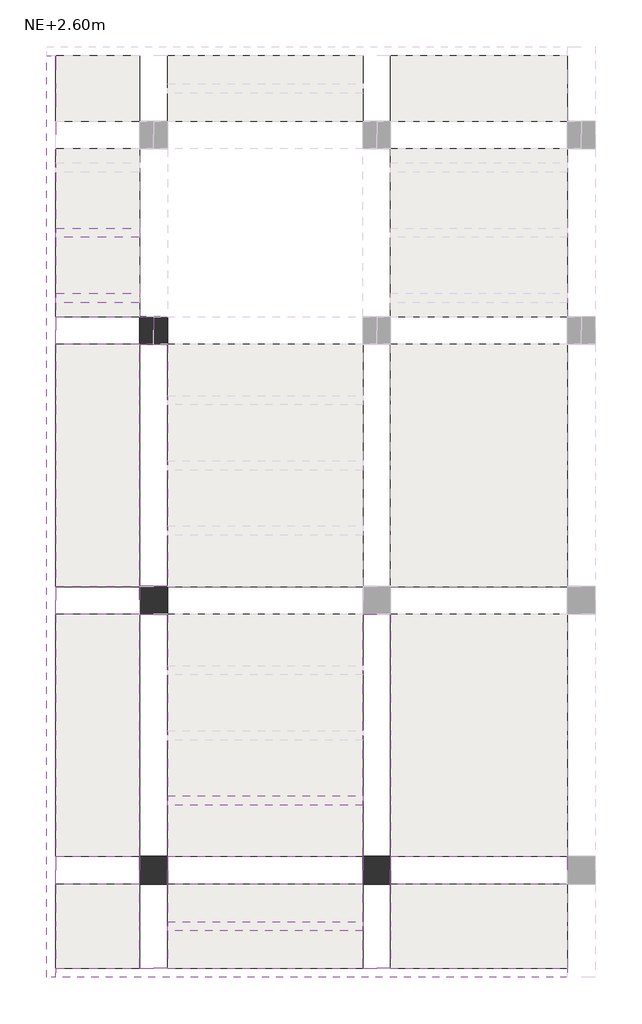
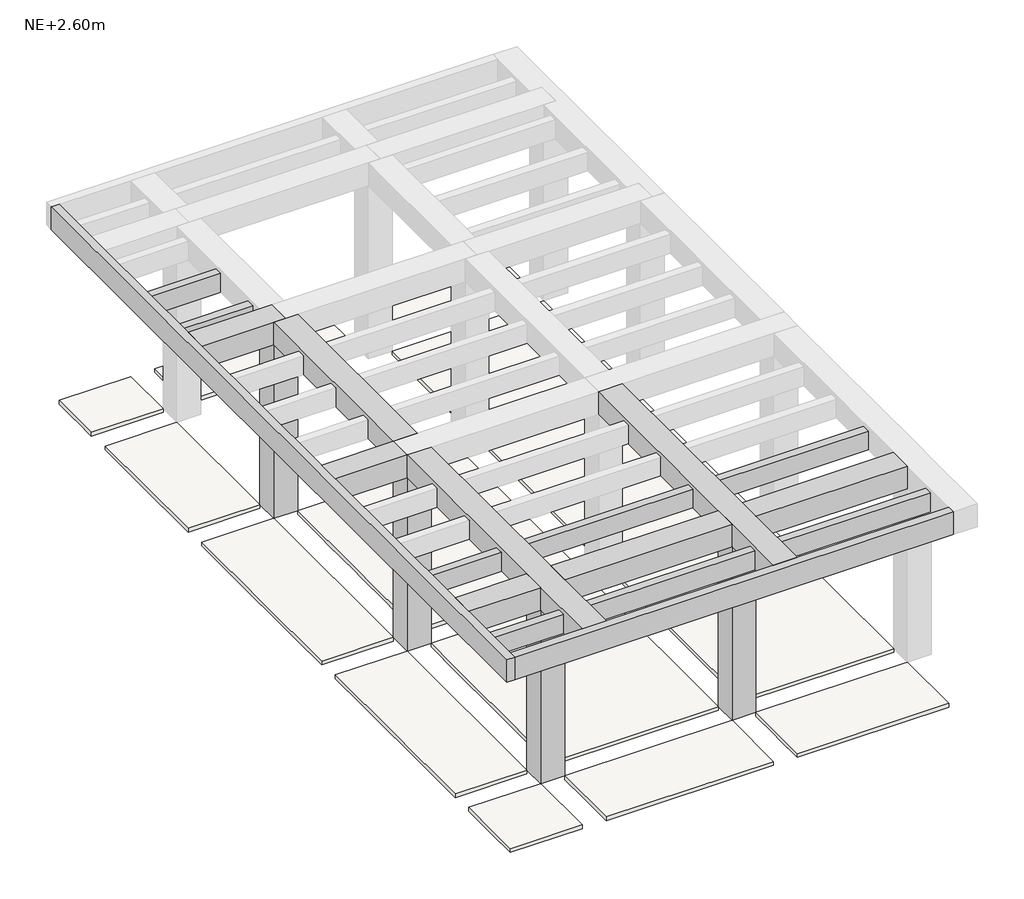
# One storey, part 1 of 2: 14 beams, 4 columns, 1 slab.
"""IFC4 building model written with IfcOpenShell, lengths in millimetres."""

import ifcopenshell
import ifcopenshell.guid

model = None  # the IFC model being written
_history = None  # IfcOwnerHistory: only IFC2X3 demands one
_inside = {}  # id of a spatial element -> (the spatial element, [elements in it])
_under = {}  # id of a project, library or spatial element -> (it, [spatial elements below it])
_declared = {}  # id of a project -> (the project, [libraries it declares])
_typed = {}  # id of a type object -> (the type object, [elements of that type])
_made_of = {}  # id of a material, layer set ... -> (it, [elements and type objects made of it])


def new_model(schema):
    """Start an empty IFC model of exactly this schema.

    Asked for "IFC4X3", IfcOpenShell would pick the latest addendum, in which some entities
    have other attributes; the version numbers below select the first issue.
    IFC2X3 requires an IfcOwnerHistory on every rooted entity: one is made here for all.
    """
    global model, _history
    if schema == "IFC4X3":
        model = ifcopenshell.file(schema_version=(4, 3, 0, 0))
    else:
        model = ifcopenshell.file(schema=schema)
    _inside.clear()
    _under.clear()
    _declared.clear()
    _typed.clear()
    _made_of.clear()
    _history = None
    if model.schema == "IFC2X3":
        org = make("IfcOrganization", Name="unknown")
        user = make(
            "IfcPersonAndOrganization",
            ThePerson=make("IfcPerson", FamilyName="unknown"),
            TheOrganization=org,
        )
        app = make(
            "IfcApplication",
            ApplicationDeveloper=org,
            Version="unknown",
            ApplicationFullName="unknown",
            ApplicationIdentifier="unknown",
        )
        _history = make(
            "IfcOwnerHistory",
            OwningUser=user,
            OwningApplication=app,
            ChangeAction="ADDED",
            CreationDate=0,
        )
    return model


def make(cls, **values):
    """One entity of the class cls with the attributes given. An attribute that is None is left unset."""
    return model.create_entity(
        cls, **{name: value for name, value in values.items() if value is not None}
    )


def rooted(cls, **values):
    """An entity with a GlobalId (a new one), such as an element, a storey or a relation."""
    return make(cls, GlobalId=ifcopenshell.guid.new(), OwnerHistory=_history, **values)


def si_unit(unit_type, name, prefix=None):
    """IfcSIUnit, for example si_unit("LENGTHUNIT", "METRE", prefix="MILLI")."""
    return make("IfcSIUnit", UnitType=unit_type, Prefix=prefix, Name=name)


def assignment(units):
    """IfcUnitAssignment: the units of a project."""
    return None if units is None else make("IfcUnitAssignment", Units=units)


def point(xyz):
    """IfcCartesianPoint."""
    return None if xyz is None else make("IfcCartesianPoint", Coordinates=xyz)


def direction(xyz):
    """IfcDirection."""
    return None if xyz is None else make("IfcDirection", DirectionRatios=xyz)


def frame(location, z_axis=None, x_axis=None):
    """IfcAxis2Placement3D, a coordinate frame: its origin and axes. An axis left out is left unset."""
    return make(
        "IfcAxis2Placement3D",
        Location=point(location),
        Axis=direction(z_axis),
        RefDirection=direction(x_axis),
    )


def origin():
    """The frame at (0, 0, 0) with its axes left unset."""
    return frame((0.0, 0.0, 0.0))


def place(relative_to, where):
    """IfcLocalPlacement: puts the frame where relative to a parent placement (None: the world)."""
    return make(
        "IfcLocalPlacement", PlacementRelTo=relative_to, RelativePlacement=where
    )


def context(
    kind, dimensions, precision=None, world=None, true_north=None, identifier=None
):
    """IfcGeometricRepresentationContext, for example the 3D "Model" context."""
    return make(
        "IfcGeometricRepresentationContext",
        ContextIdentifier=identifier,
        ContextType=kind,
        CoordinateSpaceDimension=dimensions,
        Precision=precision,
        WorldCoordinateSystem=world,
        TrueNorth=true_north,
    )


def project(units=None, contexts=None):
    """IfcProject with its units and contexts."""
    return rooted(
        "IfcProject",
        Name="project",
        RepresentationContexts=contexts,
        UnitsInContext=assignment(units),
    )


def spatial(cls, under=None, at=None, **own):
    """A site, building, storey or space (cls), placed at a placement, below another one or the project."""
    s = rooted(cls, ObjectPlacement=at, **own)
    if under is not None:
        _under.setdefault(under.id(), (under, []))[1].append(s)
    return s


def polyline(points):
    """IfcPolyline through the points."""
    return make("IfcPolyline", Points=[point(p) for p in points])


def outline(outer, holes=None, kind="AREA"):
    """IfcArbitraryClosedProfileDef: a profile drawn as a closed curve; with holes, ...WithVoids."""
    if holes is None:
        return make("IfcArbitraryClosedProfileDef", ProfileType=kind, OuterCurve=outer)
    return make(
        "IfcArbitraryProfileDefWithVoids",
        ProfileType=kind,
        OuterCurve=outer,
        InnerCurves=holes,
    )


def extrude(swept, where, along, depth):
    """IfcExtrudedAreaSolid: the profile swept, set in the frame where, extruded along a direction by depth."""
    return make(
        "IfcExtrudedAreaSolid",
        SweptArea=swept,
        Position=where,
        ExtrudedDirection=direction(along),
        Depth=depth,
    )


def faces_of(points, faces, orient=None, outer=None):
    """IfcFace entities. A face is a list of loops; a loop is a list of indices into points, from 0.

    orient and outer hold one flag for each loop. By default every Orientation is true, the
    first loop of a face is its IfcFaceOuterBound and the others are IfcFaceBound.
    """
    made = []
    for i, loops in enumerate(faces):
        bounds = []
        for j, loop in enumerate(loops):
            is_outer = j == 0 if outer is None else outer[i][j]
            bounds.append(
                make(
                    "IfcFaceOuterBound" if is_outer else "IfcFaceBound",
                    Bound=make("IfcPolyLoop", Polygon=[points[k] for k in loop]),
                    Orientation=True if orient is None else orient[i][j],
                )
            )
        made.append(make("IfcFace", Bounds=bounds))
    return made


def faceted_brep(points, faces, orient=None, outer=None, voids=None):
    """IfcFacetedBrep: a solid bounded by flat faces; with voids (closed shells), ...WithVoids."""
    shared = [point(p) for p in points]
    hull = make("IfcClosedShell", CfsFaces=faces_of(shared, faces, orient, outer))
    if voids is None:
        return make("IfcFacetedBrep", Outer=hull)
    return make(
        "IfcFacetedBrepWithVoids",
        Outer=hull,
        Voids=[
            make(cls, CfsFaces=faces_of(shared, fs, o, b)) for cls, fs, o, b in voids
        ],
    )


def shape(context_of_items, identifier, shape_type, items):
    """IfcShapeRepresentation: the items that make up one representation, for example the "Body"."""
    return make(
        "IfcShapeRepresentation",
        ContextOfItems=context_of_items,
        RepresentationIdentifier=identifier,
        RepresentationType=shape_type,
        Items=items,
    )


def made_of(thing, what):
    """Note that an element or type object is made of a material, layer set ...; save() writes the relation."""
    if what is not None:
        _made_of.setdefault(what.id(), (what, []))[1].append(thing)
    return thing


def element(
    cls,
    number,
    at=None,
    inside=None,
    cuts=None,
    type_object=None,
    material=None,
    context=None,
    identifier="Body",
    shape_type=None,
    held_by="IfcProductDefinitionShape",
    body=None,
    shapes=None,
    **own,
):
    """One element of the class cls, such as IfcWall. Its Tag is "e" and its number.

    at: its placement. inside: the storey or other place that contains it. cuts: it is an
    opening in that element (IfcRelVoidsElement). A single representation is given by context,
    identifier, shape_type and body (its items); several are given by shapes. held_by: the class
    of the entity that holds the representations. save() writes the other relations.
    """
    e = rooted(cls, Tag="e%d" % number, ObjectPlacement=at, **own)
    if body is not None:
        shapes = [shape(context, identifier, shape_type, body)]
    if shapes is not None:
        e.Representation = make(held_by, Representations=shapes)
    if inside is not None:
        _inside.setdefault(inside.id(), (inside, []))[1].append(e)
    if cuts is not None:
        rooted(
            "IfcRelVoidsElement", RelatingBuildingElement=cuts, RelatedOpeningElement=e
        )
    if type_object is not None:
        _typed.setdefault(type_object.id(), (type_object, []))[1].append(e)
    return made_of(e, material)


def aggregate(whole, parts):
    """IfcRelAggregates: a whole, such as a stair, and the parts it consists of."""
    return rooted("IfcRelAggregates", RelatingObject=whole, RelatedObjects=parts)


def save(model, path):
    """Write the relations noted so far, then the file.

    IfcRelAggregates (storeys below a building ...), IfcRelContainedInSpatialStructure (elements
    in a storey), IfcRelDefinesByType, IfcRelAssociatesMaterial and IfcRelDeclares: one each for
    every whole, place, type object, material and project.
    """
    for whole, parts in _under.values():
        aggregate(whole, parts)
    for where, things in _inside.values():
        rooted(
            "IfcRelContainedInSpatialStructure",
            RelatedElements=things,
            RelatingStructure=where,
        )
    for kind, things in _typed.values():
        rooted("IfcRelDefinesByType", RelatedObjects=things, RelatingType=kind)
    for what, things in _made_of.values():
        rooted("IfcRelAssociatesMaterial", RelatedObjects=things, RelatingMaterial=what)
    for by, libraries in _declared.values():
        rooted("IfcRelDeclares", RelatingContext=by, RelatedDefinitions=libraries)
    model.write(path)


model = new_model("IFC4")

# Units and contexts
model_context = context("Model", 3, world=origin())
ifc_project = project(units=[si_unit("LENGTHUNIT", "METRE", prefix="MILLI")], contexts=[model_context])

# Site, building, storey
site = spatial("IfcSite", under=ifc_project)
building = spatial("IfcBuilding", under=site)
storey = spatial("IfcBuildingStorey", under=building, Name="NE+2.60m", Elevation=2600.0)

# Beams
placement = place(None, origin())
element("IfcBeam", 1, ObjectType="Hormigón-Viga rectangular : VA (0.30x0.30m)", at=placement, inside=storey, context=model_context, shape_type="Brep", body=[
    faceted_brep([(-897.6811082, -1337.1867862, 5200.0), (-897.6811082, -1037.1867862, 5200.0), (-1047.6811082, -1037.1867862, 5200.0), (-1947.6811082, -1037.1867862, 5200.0), (-1947.6811082, -1337.1867862, 5200.0), (-1047.6811082, -1337.1867862, 5200.0), (-897.6811082, -1037.1867862, 4900.0), (-1047.6811082, -1037.1867862, 4900.0), (-1947.6811082, -1037.1867862, 4900.0), (-1947.6811082, -1037.1867862, 5150.0), (-897.6811082, -1337.1867862, 4900.0), (-1047.6811082, -1337.1867862, 4900.0), (-1947.6811082, -1337.1867862, 4900.0), (-1947.6811082, -1337.1867862, 5150.0)], [[[0, 1, 2, 3, 4, 5]], [[1, 6, 7, 8, 9, 3, 2]], [[6, 10, 11, 12, 8, 7]], [[10, 0, 5, 4, 13, 12, 11]], [[0, 10, 6, 1]], [[4, 3, 9, 8, 12, 13]]]),
])
element("IfcBeam", 2, ObjectType="Hormigón-Viga rectangular : VA (0.30x0.30m)", at=placement, inside=storey, context=model_context, shape_type="Brep", body=[
    faceted_brep([(-1047.6811082, -4237.1867862, 5200.0), (-1047.6811082, -3937.1867862, 5200.0), (-1947.6811082, -3937.1867862, 5200.0), (-1947.6811082, -4237.1867862, 5200.0), (-1047.6811082, -3937.1867862, 5150.0), (-1047.6811082, -3937.1867862, 4900.0), (-1947.6811082, -3937.1867862, 4900.0), (-1947.6811082, -3937.1867862, 5150.0), (-1047.6811082, -4237.1867862, 4900.0), (-1947.6811082, -4237.1867862, 4900.0), (-1947.6811082, -4237.1867862, 5150.0), (-1047.6811082, -4237.1867862, 5150.0)], [[[0, 1, 2, 3]], [[2, 1, 4, 5, 6, 7]], [[5, 8, 9, 6]], [[0, 3, 10, 9, 8, 11]], [[1, 0, 11, 8, 5, 4]], [[3, 2, 7, 6, 9, 10]]]),
])
element("IfcBeam", 3, ObjectType="Hormigón-Viga rectangular : VA (0.30x0.30m)", at=placement, inside=storey, context=model_context, shape_type="Brep", body=[
    faceted_brep([(3552.3188918, -7137.1867862, 5200.0), (3552.3188918, -6837.1867862, 5200.0), (1652.3188918, -6837.1867862, 5200.0), (1652.3188918, -7137.1867862, 5200.0), (3552.3188918, -6837.1867862, 5150.0), (3552.3188918, -6837.1867862, 4900.0), (1652.3188918, -6837.1867862, 4900.0), (1652.3188918, -6837.1867862, 5150.0), (3552.3188918, -7137.1867862, 4900.0), (1652.3188918, -7137.1867862, 4900.0), (1652.3188918, -7137.1867862, 5150.0), (3552.3188918, -7137.1867862, 5150.0)], [[[0, 1, 2, 3]], [[2, 1, 4, 5, 6, 7]], [[5, 8, 9, 6]], [[0, 3, 10, 9, 8, 11]], [[1, 0, 11, 8, 5, 4]], [[3, 2, 7, 6, 9, 10]]]),
])
element("IfcBeam", 4, ObjectType="Hormigón-Viga rectangular : VA (0.30x0.30m)", at=placement, inside=storey, context=model_context, shape_type="Brep", body=[
    faceted_brep([(1352.3188918, -7137.1867862, 5200.0), (1352.3188918, -6837.1867862, 5200.0), (-747.6811082, -6837.1867862, 5200.0), (-747.6811082, -7137.1867862, 5200.0), (1352.3188918, -6837.1867862, 5150.0), (1352.3188918, -6837.1867862, 4900.0), (-747.6811082, -6837.1867862, 4900.0), (-747.6811082, -6837.1867862, 5150.0), (1352.3188918, -7137.1867862, 4900.0), (-747.6811082, -7137.1867862, 4900.0), (-747.6811082, -7137.1867862, 5150.0), (1352.3188918, -7137.1867862, 5150.0)], [[[0, 1, 2, 3]], [[2, 1, 4, 5, 6, 7]], [[5, 8, 9, 6]], [[0, 3, 10, 9, 8, 11]], [[1, 0, 11, 8, 5, 4]], [[3, 2, 7, 6, 9, 10]]]),
])
element("IfcBeam", 5, ObjectType="Hormigón-Viga rectangular : VA (0.30x0.30m)", at=placement, inside=storey, context=model_context, shape_type="Brep", body=[
    faceted_brep([(-1047.6811082, -7137.1867862, 5200.0), (-1047.6811082, -6837.1867862, 5200.0), (-1947.6811082, -6837.1867862, 5200.0), (-1947.6811082, -7137.1867862, 5200.0), (-1047.6811082, -6837.1867862, 5150.0), (-1047.6811082, -6837.1867862, 4900.0), (-1947.6811082, -6837.1867862, 4900.0), (-1947.6811082, -6837.1867862, 5150.0), (-1047.6811082, -7137.1867862, 4900.0), (-1947.6811082, -7137.1867862, 4900.0), (-1947.6811082, -7137.1867862, 5150.0), (-1047.6811082, -7137.1867862, 5150.0)], [[[0, 1, 2, 3]], [[2, 1, 4, 5, 6, 7]], [[5, 8, 9, 6]], [[0, 3, 10, 9, 8, 11]], [[1, 0, 11, 8, 5, 4]], [[3, 2, 7, 6, 9, 10]]]),
])
element("IfcBeam", 6, ObjectType="Hormigón-Viga rectangular : VA (0.30x0.30m)", at=placement, inside=storey, context=model_context, shape_type="Brep", body=[
    faceted_brep([(1652.3188918, -4237.1867862, 5200.0), (1352.3188918, -4237.1867862, 5200.0), (1352.3188918, -6837.1867862, 5200.0), (1352.3188918, -7137.1867862, 5200.0), (1352.3188918, -8037.1867862, 5200.0), (1652.3188918, -8037.1867862, 5200.0), (1652.3188918, -7137.1867862, 5200.0), (1652.3188918, -6837.1867862, 5200.0), (1652.3188918, -8037.1867862, 4900.0), (1652.3188918, -7637.1867862, 4900.0), (1652.3188918, -7537.1867862, 4900.0), (1652.3188918, -7137.1867862, 4900.0), (1652.3188918, -6837.1867862, 4900.0), (1652.3188918, -6287.1867862, 4900.0), (1652.3188918, -6187.1867862, 4900.0), (1652.3188918, -5587.1867862, 4900.0), (1652.3188918, -5487.1867862, 4900.0), (1652.3188918, -4887.1867862, 4900.0), (1652.3188918, -4787.1867862, 4900.0), (1652.3188918, -4237.1867862, 4900.0), (1652.3188918, -4237.1867862, 5150.0), (1652.3188918, -8037.1867862, 5150.0), (1352.3188918, -4237.1867862, 4900.0), (1352.3188918, -8037.1867862, 4900.0), (1352.3188918, -7637.1867862, 4900.0), (1352.3188918, -7537.1867862, 4900.0), (1352.3188918, -7137.1867862, 4900.0), (1352.3188918, -6837.1867862, 4900.0), (1352.3188918, -6287.1867862, 4900.0), (1352.3188918, -6187.1867862, 4900.0), (1352.3188918, -5587.1867862, 4900.0), (1352.3188918, -5487.1867862, 4900.0), (1352.3188918, -4887.1867862, 4900.0), (1352.3188918, -4787.1867862, 4900.0), (1352.3188918, -8037.1867862, 5150.0), (1352.3188918, -4237.1867862, 5150.0)], [[[0, 1, 2, 3, 4, 5, 6, 7]], [[8, 9, 10, 11, 12, 13, 14, 15, 16, 17, 18, 19, 20, 0, 7, 6, 5, 21]], [[22, 19, 18, 17, 16, 15, 14, 13, 12, 11, 10, 9, 8, 23, 24, 25, 26, 27, 28, 29, 30, 31, 32, 33]], [[22, 33, 32, 31, 30, 29, 28, 27, 26, 25, 24, 23, 34, 4, 3, 2, 1, 35]], [[1, 0, 20, 19, 22, 35]], [[5, 4, 34, 23, 8, 21]]]),
])
element("IfcBeam", 7, ObjectType="Hormigón-Viga rectangular : VA (0.30x0.30m)", at=placement, inside=storey, context=model_context, shape_type="Brep", body=[
    faceted_brep([(-1047.6811082, -3937.1867862, 5200.0), (-747.6811082, -3937.1867862, 5200.0), (-747.6811082, -1337.1867862, 5200.0), (-897.6811082, -1337.1867862, 5200.0), (-1047.6811082, -1337.1867862, 5200.0), (-1047.6811082, -1337.1867862, 5150.0), (-1047.6811082, -1337.1867862, 4900.0), (-1047.6811082, -1887.1867862, 4900.0), (-1047.6811082, -1987.1867862, 4900.0), (-1047.6811082, -2587.1867862, 4900.0), (-1047.6811082, -2687.1867862, 4900.0), (-1047.6811082, -3287.1867862, 4900.0), (-1047.6811082, -3387.1867862, 4900.0), (-1047.6811082, -3937.1867862, 4900.0), (-1047.6811082, -3937.1867862, 5150.0), (-747.6811082, -3937.1867862, 4900.0), (-897.6811082, -1337.1867862, 4900.0), (-747.6811082, -1337.1867862, 4900.0), (-747.6811082, -1887.1867862, 4900.0), (-747.6811082, -1987.1867862, 4900.0), (-747.6811082, -2587.1867862, 4900.0), (-747.6811082, -2687.1867862, 4900.0), (-747.6811082, -3287.1867862, 4900.0), (-747.6811082, -3387.1867862, 4900.0), (-747.6811082, -3937.1867862, 5150.0), (-747.6811082, -1337.1867862, 5150.0)], [[[0, 1, 2, 3, 4]], [[0, 4, 5, 6, 7, 8, 9, 10, 11, 12, 13, 14]], [[15, 13, 12, 11, 10, 9, 8, 7, 6, 16, 17, 18, 19, 20, 21, 22, 23]], [[2, 1, 24, 15, 23, 22, 21, 20, 19, 18, 17, 25]], [[1, 0, 14, 13, 15, 24]], [[4, 3, 2, 25, 17, 16, 6, 5]]]),
])
element("IfcBeam", 8, ObjectType="Hormigón-Viga rectangular : VA (0.30x0.30m)", at=placement, inside=storey, context=model_context, shape_type="Brep", body=[
    faceted_brep([(-747.6811082, -4237.1867862, 5200.0), (-1047.6811082, -4237.1867862, 5200.0), (-1047.6811082, -6837.1867862, 5200.0), (-1047.6811082, -7137.1867862, 5200.0), (-1047.6811082, -8037.1867862, 5200.0), (-747.6811082, -8037.1867862, 5200.0), (-747.6811082, -7137.1867862, 5200.0), (-747.6811082, -6837.1867862, 5200.0), (-1047.6811082, -4237.1867862, 4900.0), (-1047.6811082, -4787.1867862, 4900.0), (-1047.6811082, -4887.1867862, 4900.0), (-1047.6811082, -5487.1867862, 4900.0), (-1047.6811082, -5587.1867862, 4900.0), (-1047.6811082, -6187.1867862, 4900.0), (-1047.6811082, -6287.1867862, 4900.0), (-1047.6811082, -6837.1867862, 4900.0), (-1047.6811082, -7137.1867862, 4900.0), (-1047.6811082, -7537.1867862, 4900.0), (-1047.6811082, -7637.1867862, 4900.0), (-1047.6811082, -8037.1867862, 4900.0), (-1047.6811082, -8037.1867862, 5150.0), (-1047.6811082, -4237.1867862, 5150.0), (-747.6811082, -4237.1867862, 4900.0), (-747.6811082, -4787.1867862, 4900.0), (-747.6811082, -4887.1867862, 4900.0), (-747.6811082, -5487.1867862, 4900.0), (-747.6811082, -5587.1867862, 4900.0), (-747.6811082, -6187.1867862, 4900.0), (-747.6811082, -6287.1867862, 4900.0), (-747.6811082, -6837.1867862, 4900.0), (-747.6811082, -7137.1867862, 4900.0), (-747.6811082, -7537.1867862, 4900.0), (-747.6811082, -7637.1867862, 4900.0), (-747.6811082, -8037.1867862, 4900.0), (-747.6811082, -4237.1867862, 5150.0), (-747.6811082, -8037.1867862, 5150.0)], [[[0, 1, 2, 3, 4, 5, 6, 7]], [[8, 9, 10, 11, 12, 13, 14, 15, 16, 17, 18, 19, 20, 4, 3, 2, 1, 21]], [[8, 22, 23, 24, 25, 26, 27, 28, 29, 30, 31, 32, 33, 19, 18, 17, 16, 15, 14, 13, 12, 11, 10, 9]], [[33, 32, 31, 30, 29, 28, 27, 26, 25, 24, 23, 22, 34, 0, 7, 6, 5, 35]], [[1, 0, 34, 22, 8, 21]], [[5, 4, 20, 19, 33, 35]]]),
])
element("IfcBeam", 9, ObjectType="Hormigón-Viga rectangular : VB (0.10x0.30m)", at=placement, inside=storey, context=model_context, shape_type="Brep", body=[
    faceted_brep([(-2047.6811082, -8137.1867862, 5200.0), (-1947.6811082, -8137.1867862, 5200.0), (-1947.6811082, -8037.1867862, 5200.0), (-1947.6811082, -7137.1867862, 5200.0), (-1947.6811082, -6837.1867862, 5200.0), (-1947.6811082, -4237.1867862, 5200.0), (-1947.6811082, -3937.1867862, 5200.0), (-1947.6811082, -1337.1867862, 5200.0), (-1947.6811082, -1037.1867862, 5200.0), (-1947.6811082, 762.8132138, 5200.0), (-1947.6811082, 1062.8132138, 5200.0), (-1947.6811082, 1762.8132138, 5200.0), (-2047.6811082, 1762.8132138, 5200.0), (-2047.6811082, -8137.1867862, 4900.0), (-2047.6811082, 1762.8132138, 4900.0), (-1947.6811082, -8137.1867862, 4900.0), (-1947.6811082, 1762.8132138, 4900.0), (-1947.6811082, 1462.8132138, 4900.0), (-1947.6811082, 1362.8132138, 4900.0), (-1947.6811082, 1062.8132138, 4900.0), (-1947.6811082, 762.8132138, 4900.0), (-1947.6811082, 612.8132138, 4900.0), (-1947.6811082, 512.8132138, 4900.0), (-1947.6811082, -87.1867862, 4900.0), (-1947.6811082, -187.1867862, 4900.0), (-1947.6811082, -787.1867862, 4900.0), (-1947.6811082, -887.1867862, 4900.0), (-1947.6811082, -1037.1867862, 4900.0), (-1947.6811082, -1337.1867862, 4900.0), (-1947.6811082, -1887.1867862, 4900.0), (-1947.6811082, -1987.1867862, 4900.0), (-1947.6811082, -2587.1867862, 4900.0), (-1947.6811082, -2687.1867862, 4900.0), (-1947.6811082, -3287.1867862, 4900.0), (-1947.6811082, -3387.1867862, 4900.0), (-1947.6811082, -3937.1867862, 4900.0), (-1947.6811082, -4237.1867862, 4900.0), (-1947.6811082, -4787.1867862, 4900.0), (-1947.6811082, -4887.1867862, 4900.0), (-1947.6811082, -5487.1867862, 4900.0), (-1947.6811082, -5587.1867862, 4900.0), (-1947.6811082, -6187.1867862, 4900.0), (-1947.6811082, -6287.1867862, 4900.0), (-1947.6811082, -6837.1867862, 4900.0), (-1947.6811082, -7137.1867862, 4900.0), (-1947.6811082, -7537.1867862, 4900.0), (-1947.6811082, -7637.1867862, 4900.0), (-1947.6811082, -8037.1867862, 4900.0), (-1947.6811082, 1762.8132138, 5150.0)], [[[0, 1, 2, 3, 4, 5, 6, 7, 8, 9, 10, 11, 12]], [[13, 0, 12, 14]], [[15, 13, 14, 16, 17, 18, 19, 20, 21, 22, 23, 24, 25, 26, 27, 28, 29, 30, 31, 32, 33, 34, 35, 36, 37, 38, 39, 40, 41, 42, 43, 44, 45, 46, 47]], [[1, 15, 47, 46, 45, 44, 43, 42, 41, 40, 39, 38, 37, 36, 35, 34, 33, 32, 31, 30, 29, 28, 27, 26, 25, 24, 23, 22, 21, 20, 19, 18, 17, 16, 48, 11, 10, 9, 8, 7, 6, 5, 4, 3, 2]], [[12, 11, 48, 16, 14]], [[1, 0, 13, 15]]]),
])
element("IfcBeam", 10, ObjectType="Hormigón-Viga rectangular : VB (0.10x0.30m)", at=placement, inside=storey, context=model_context, shape_type="Brep", body=[
    faceted_brep([(-1947.6811082, -8037.1867862, 5200.0), (-1947.6811082, -8137.1867862, 5200.0), (3552.3188918, -8137.1867862, 5200.0), (3552.3188918, -8037.1867862, 5200.0), (1652.3188918, -8037.1867862, 5200.0), (1352.3188918, -8037.1867862, 5200.0), (-747.6811082, -8037.1867862, 5200.0), (-1047.6811082, -8037.1867862, 5200.0), (-1947.6811082, -8137.1867862, 4900.0), (3552.3188918, -8137.1867862, 4900.0), (-1947.6811082, -8037.1867862, 4900.0), (-1047.6811082, -8037.1867862, 4900.0), (-747.6811082, -8037.1867862, 4900.0), (1352.3188918, -8037.1867862, 4900.0), (1652.3188918, -8037.1867862, 4900.0), (3552.3188918, -8037.1867862, 4900.0), (-1947.6811082, -8037.1867862, 5150.0), (3552.3188918, -8037.1867862, 5150.0)], [[[0, 1, 2, 3, 4, 5, 6, 7]], [[1, 8, 9, 2]], [[8, 10, 11, 12, 13, 14, 15, 9]], [[10, 16, 0, 7, 6, 5, 4, 3, 17, 15, 14, 13, 12, 11]], [[1, 0, 16, 10, 8]], [[3, 2, 9, 15, 17]]]),
])
element("IfcBeam", 11, ObjectType="Hormigón-Viga rectangular : VT (0.10x0.30m)", at=placement, inside=storey, context=model_context, shape_type="SweptSolid", body=[
    extrude(outline(polyline([(3552.3188918, -7537.1867862), (3552.3188918, -7637.1867862), (1652.3188918, -7637.1867862), (1652.3188918, -7537.1867862), (3552.3188918, -7537.1867862)])), frame((0.0, 0.0, 4900.0), z_axis=(0.0, 0.0, 1.0), x_axis=(1.0, 0.0, 0.0)), (0.0, 0.0, 1.0), 250.0),
    extrude(outline(polyline([(-1947.6811082, -7637.1867862), (-1947.6811082, -7537.1867862), (-1047.6811082, -7537.1867862), (-1047.6811082, -7637.1867862), (-1947.6811082, -7637.1867862)])), frame((0.0, 0.0, 4900.0), z_axis=(0.0, 0.0, 1.0), x_axis=(1.0, 0.0, 0.0)), (0.0, 0.0, 1.0), 250.0),
    extrude(outline(polyline([(1352.3188918, -7537.1867862), (1352.3188918, -7637.1867862), (-747.6811082, -7637.1867862), (-747.6811082, -7537.1867862), (1352.3188918, -7537.1867862)])), frame((0.0, 0.0, 4900.0), z_axis=(0.0, 0.0, 1.0), x_axis=(1.0, 0.0, 0.0)), (0.0, 0.0, 1.0), 250.0),
])
element("IfcBeam", 12, ObjectType="Hormigón-Viga rectangular : VT (0.10x0.30m)", at=placement, inside=storey, context=model_context, shape_type="SweptSolid", body=[
    extrude(outline(polyline([(3552.3188918, -6187.1867862), (3552.3188918, -6287.1867862), (1652.3188918, -6287.1867862), (1652.3188918, -6187.1867862), (3552.3188918, -6187.1867862)])), frame((0.0, 0.0, 4900.0), z_axis=(0.0, 0.0, 1.0), x_axis=(1.0, 0.0, 0.0)), (0.0, 0.0, 1.0), 250.0),
    extrude(outline(polyline([(-1947.6811082, -6287.1867862), (-1947.6811082, -6187.1867862), (-1047.6811082, -6187.1867862), (-1047.6811082, -6287.1867862), (-1947.6811082, -6287.1867862)])), frame((0.0, 0.0, 4900.0), z_axis=(0.0, 0.0, 1.0), x_axis=(1.0, 0.0, 0.0)), (0.0, 0.0, 1.0), 250.0),
    extrude(outline(polyline([(1352.3188918, -6187.1867862), (1352.3188918, -6287.1867862), (-747.6811082, -6287.1867862), (-747.6811082, -6187.1867862), (1352.3188918, -6187.1867862)])), frame((0.0, 0.0, 4900.0), z_axis=(0.0, 0.0, 1.0), x_axis=(1.0, 0.0, 0.0)), (0.0, 0.0, 1.0), 250.0),
])
element("IfcBeam", 13, ObjectType="Hormigón-Viga rectangular : VT (0.10x0.30m)", at=placement, inside=storey, context=model_context, shape_type="SweptSolid", body=[
    extrude(outline(polyline([(-1047.6811082, -87.1867862), (-1047.6811082, -187.1867862), (-1947.6811082, -187.1867862), (-1947.6811082, -87.1867862), (-1047.6811082, -87.1867862)])), frame((0.0, 0.0, 4900.0), z_axis=(0.0, 0.0, 1.0), x_axis=(1.0, 0.0, 0.0)), (0.0, 0.0, 1.0), 250.0),
])
element("IfcBeam", 14, ObjectType="Hormigón-Viga rectangular : VT (0.10x0.30m)", at=placement, inside=storey, context=model_context, shape_type="SweptSolid", body=[
    extrude(outline(polyline([(-1047.6811082, -787.1867862), (-1047.6811082, -887.1867862), (-1947.6811082, -887.1867862), (-1947.6811082, -787.1867862), (-1047.6811082, -787.1867862)])), frame((0.0, 0.0, 4900.0), z_axis=(0.0, 0.0, 1.0), x_axis=(1.0, 0.0, 0.0)), (0.0, 0.0, 1.0), 250.0),
])

# Columns
element("IfcColumn", 15, ObjectType="Hormigón-Rectangular-Pilar : C1 (0.30x0.30m)", at=placement, inside=storey, context=model_context, shape_type="SweptSolid", body=[
    extrude(outline(polyline([(-747.6811082, -1037.1867862), (-747.6811082, -1337.1867862), (-1047.6811082, -1337.1867862), (-1047.6811082, -1037.1867862), (-747.6811082, -1037.1867862)])), frame((0.0, 0.0, 2600.0), z_axis=(0.0, 0.0, 1.0), x_axis=(1.0, 0.0, 0.0)), (0.0, 0.0, 1.0), 2300.0),
])
element("IfcColumn", 16, ObjectType="Hormigón-Rectangular-Pilar : C1 (0.30x0.30m)", at=placement, inside=storey, context=model_context, shape_type="SweptSolid", body=[
    extrude(outline(polyline([(-747.6811082, -3937.1867862), (-747.6811082, -4237.1867862), (-1047.6811082, -4237.1867862), (-1047.6811082, -3937.1867862), (-747.6811082, -3937.1867862)])), frame((0.0, 0.0, 2600.0), z_axis=(0.0, 0.0, 1.0), x_axis=(1.0, 0.0, 0.0)), (0.0, 0.0, 1.0), 2300.0),
])
element("IfcColumn", 17, ObjectType="Hormigón-Rectangular-Pilar : C1 (0.30x0.30m)", at=placement, inside=storey, context=model_context, shape_type="SweptSolid", body=[
    extrude(outline(polyline([(-747.6811082, -6837.1867862), (-747.6811082, -7137.1867862), (-1047.6811082, -7137.1867862), (-1047.6811082, -6837.1867862), (-747.6811082, -6837.1867862)])), frame((0.0, 0.0, 2600.0), z_axis=(0.0, 0.0, 1.0), x_axis=(1.0, 0.0, 0.0)), (0.0, 0.0, 1.0), 2300.0),
])
element("IfcColumn", 18, ObjectType="Hormigón-Rectangular-Pilar : C1 (0.30x0.30m)", at=placement, inside=storey, context=model_context, shape_type="SweptSolid", body=[
    extrude(outline(polyline([(1652.3188918, -6837.1867862), (1652.3188918, -7137.1867862), (1352.3188918, -7137.1867862), (1352.3188918, -6837.1867862), (1652.3188918, -6837.1867862)])), frame((0.0, 0.0, 2600.0), z_axis=(0.0, 0.0, 1.0), x_axis=(1.0, 0.0, 0.0)), (0.0, 0.0, 1.0), 2300.0),
])

# Slab
element("IfcSlab", 19, ObjectType="Torta superior e=5cm", at=placement, inside=storey, context=model_context, shape_type="Brep", body=[
    faceted_brep([(-1047.6811082, 1762.8132138, 2550.0), (-1047.6811082, 1462.8132138, 2550.0), (-1047.6811082, 1362.8132138, 2550.0), (-1047.6811082, 1062.8132138, 2550.0), (-1947.6811082, 1062.8132138, 2550.0), (-1947.6811082, 1362.8132138, 2550.0), (-1947.6811082, 1462.8132138, 2550.0), (-1947.6811082, 1762.8132138, 2550.0), (-1047.6811082, 1762.8132138, 2600.0), (-1947.6811082, 1762.8132138, 2600.0), (-1947.6811082, 1062.8132138, 2600.0), (-1047.6811082, 1062.8132138, 2600.0)], [[[0, 1, 2, 3, 4, 5, 6, 7]], [[8, 9, 10, 11]], [[3, 2, 1, 0, 8, 11]], [[4, 3, 11, 10]], [[7, 6, 5, 4, 10, 9]], [[0, 7, 9, 8]]]),
    faceted_brep([(1352.3188918, 1762.8132138, 2550.0), (1352.3188918, 1462.8132138, 2550.0), (1352.3188918, 1362.8132138, 2550.0), (1352.3188918, 1062.8132138, 2550.0), (-747.6811082, 1062.8132138, 2550.0), (-747.6811082, 1362.8132138, 2550.0), (-747.6811082, 1462.8132138, 2550.0), (-747.6811082, 1762.8132138, 2550.0), (1352.3188918, 1762.8132138, 2600.0), (-747.6811082, 1762.8132138, 2600.0), (-747.6811082, 1062.8132138, 2600.0), (1352.3188918, 1062.8132138, 2600.0)], [[[0, 1, 2, 3, 4, 5, 6, 7]], [[8, 9, 10, 11]], [[3, 2, 1, 0, 8, 11]], [[4, 3, 11, 10]], [[7, 6, 5, 4, 10, 9]], [[0, 7, 9, 8]]]),
    faceted_brep([(3552.3188918, 1762.8132138, 2550.0), (3552.3188918, 1462.8132138, 2550.0), (3552.3188918, 1362.8132138, 2550.0), (3552.3188918, 1062.8132138, 2550.0), (1652.3188918, 1062.8132138, 2550.0), (1652.3188918, 1362.8132138, 2550.0), (1652.3188918, 1462.8132138, 2550.0), (1652.3188918, 1762.8132138, 2550.0), (3552.3188918, 1762.8132138, 2600.0), (1652.3188918, 1762.8132138, 2600.0), (1652.3188918, 1062.8132138, 2600.0), (3552.3188918, 1062.8132138, 2600.0)], [[[0, 1, 2, 3, 4, 5, 6, 7]], [[8, 9, 10, 11]], [[3, 2, 1, 0, 8, 11]], [[4, 3, 11, 10]], [[7, 6, 5, 4, 10, 9]], [[0, 7, 9, 8]]]),
    faceted_brep([(-1047.6811082, 762.8132138, 2550.0), (-1047.6811082, 612.8132138, 2550.0), (-1047.6811082, 512.8132138, 2550.0), (-1047.6811082, -87.1867862, 2550.0), (-1047.6811082, -187.1867862, 2550.0), (-1047.6811082, -787.1867862, 2550.0), (-1047.6811082, -887.1867862, 2550.0), (-1047.6811082, -1037.1867862, 2550.0), (-1947.6811082, -1037.1867862, 2550.0), (-1947.6811082, -887.1867862, 2550.0), (-1947.6811082, -787.1867862, 2550.0), (-1947.6811082, -187.1867862, 2550.0), (-1947.6811082, -87.1867862, 2550.0), (-1947.6811082, 512.8132138, 2550.0), (-1947.6811082, 612.8132138, 2550.0), (-1947.6811082, 762.8132138, 2550.0), (-1047.6811082, 762.8132138, 2600.0), (-1947.6811082, 762.8132138, 2600.0), (-1947.6811082, -1037.1867862, 2600.0), (-1047.6811082, -1037.1867862, 2600.0)], [[[0, 1, 2, 3, 4, 5, 6, 7, 8, 9, 10, 11, 12, 13, 14, 15]], [[16, 17, 18, 19]], [[7, 6, 5, 4, 3, 2, 1, 0, 16, 19]], [[8, 7, 19, 18]], [[15, 14, 13, 12, 11, 10, 9, 8, 18, 17]], [[0, 15, 17, 16]]]),
    faceted_brep([(3552.3188918, 762.8132138, 2550.0), (3552.3188918, 612.8132138, 2550.0), (3552.3188918, 512.8132138, 2550.0), (3552.3188918, -87.1867862, 2550.0), (3552.3188918, -187.1867862, 2550.0), (3552.3188918, -787.1867862, 2550.0), (3552.3188918, -887.1867862, 2550.0), (3552.3188918, -1037.1867862, 2550.0), (1652.3188918, -1037.1867862, 2550.0), (1652.3188918, -887.1867862, 2550.0), (1652.3188918, -787.1867862, 2550.0), (1652.3188918, -187.1867862, 2550.0), (1652.3188918, -87.1867862, 2550.0), (1652.3188918, 512.8132138, 2550.0), (1652.3188918, 612.8132138, 2550.0), (1652.3188918, 762.8132138, 2550.0), (3552.3188918, 762.8132138, 2600.0), (1652.3188918, 762.8132138, 2600.0), (1652.3188918, -1037.1867862, 2600.0), (3552.3188918, -1037.1867862, 2600.0)], [[[0, 1, 2, 3, 4, 5, 6, 7, 8, 9, 10, 11, 12, 13, 14, 15]], [[16, 17, 18, 19]], [[7, 6, 5, 4, 3, 2, 1, 0, 16, 19]], [[8, 7, 19, 18]], [[15, 14, 13, 12, 11, 10, 9, 8, 18, 17]], [[0, 15, 17, 16]]]),
    faceted_brep([(-1047.6811082, -1337.1867862, 2550.0), (-1047.6811082, -1887.1867862, 2550.0), (-1047.6811082, -1987.1867862, 2550.0), (-1047.6811082, -2587.1867862, 2550.0), (-1047.6811082, -2687.1867862, 2550.0), (-1047.6811082, -3287.1867862, 2550.0), (-1047.6811082, -3387.1867862, 2550.0), (-1047.6811082, -3937.1867862, 2550.0), (-1947.6811082, -3937.1867862, 2550.0), (-1947.6811082, -3387.1867862, 2550.0), (-1947.6811082, -3287.1867862, 2550.0), (-1947.6811082, -2687.1867862, 2550.0), (-1947.6811082, -2587.1867862, 2550.0), (-1947.6811082, -1987.1867862, 2550.0), (-1947.6811082, -1887.1867862, 2550.0), (-1947.6811082, -1337.1867862, 2550.0), (-1047.6811082, -1337.1867862, 2600.0), (-1947.6811082, -1337.1867862, 2600.0), (-1947.6811082, -3937.1867862, 2600.0), (-1047.6811082, -3937.1867862, 2600.0)], [[[0, 1, 2, 3, 4, 5, 6, 7, 8, 9, 10, 11, 12, 13, 14, 15]], [[16, 17, 18, 19]], [[7, 6, 5, 4, 3, 2, 1, 0, 16, 19]], [[8, 7, 19, 18]], [[15, 14, 13, 12, 11, 10, 9, 8, 18, 17]], [[0, 15, 17, 16]]]),
    faceted_brep([(1352.3188918, -1337.1867862, 2550.0), (1352.3188918, -1887.1867862, 2550.0), (1352.3188918, -1987.1867862, 2550.0), (1352.3188918, -2587.1867862, 2550.0), (1352.3188918, -2687.1867862, 2550.0), (1352.3188918, -3287.1867862, 2550.0), (1352.3188918, -3387.1867862, 2550.0), (1352.3188918, -3937.1867862, 2550.0), (-747.6811082, -3937.1867862, 2550.0), (-747.6811082, -3387.1867862, 2550.0), (-747.6811082, -3287.1867862, 2550.0), (-747.6811082, -2687.1867862, 2550.0), (-747.6811082, -2587.1867862, 2550.0), (-747.6811082, -1987.1867862, 2550.0), (-747.6811082, -1887.1867862, 2550.0), (-747.6811082, -1337.1867862, 2550.0), (1352.3188918, -1337.1867862, 2600.0), (-747.6811082, -1337.1867862, 2600.0), (-747.6811082, -3937.1867862, 2600.0), (1352.3188918, -3937.1867862, 2600.0)], [[[0, 1, 2, 3, 4, 5, 6, 7, 8, 9, 10, 11, 12, 13, 14, 15]], [[16, 17, 18, 19]], [[7, 6, 5, 4, 3, 2, 1, 0, 16, 19]], [[8, 7, 19, 18]], [[15, 14, 13, 12, 11, 10, 9, 8, 18, 17]], [[0, 15, 17, 16]]]),
    faceted_brep([(3552.3188918, -1337.1867862, 2550.0), (3552.3188918, -1887.1867862, 2550.0), (3552.3188918, -1987.1867862, 2550.0), (3552.3188918, -2587.1867862, 2550.0), (3552.3188918, -2687.1867862, 2550.0), (3552.3188918, -3287.1867862, 2550.0), (3552.3188918, -3387.1867862, 2550.0), (3552.3188918, -3937.1867862, 2550.0), (1652.3188918, -3937.1867862, 2550.0), (1652.3188918, -3387.1867862, 2550.0), (1652.3188918, -3287.1867862, 2550.0), (1652.3188918, -2687.1867862, 2550.0), (1652.3188918, -2587.1867862, 2550.0), (1652.3188918, -1987.1867862, 2550.0), (1652.3188918, -1887.1867862, 2550.0), (1652.3188918, -1337.1867862, 2550.0), (3552.3188918, -1337.1867862, 2600.0), (1652.3188918, -1337.1867862, 2600.0), (1652.3188918, -3937.1867862, 2600.0), (3552.3188918, -3937.1867862, 2600.0)], [[[0, 1, 2, 3, 4, 5, 6, 7, 8, 9, 10, 11, 12, 13, 14, 15]], [[16, 17, 18, 19]], [[7, 6, 5, 4, 3, 2, 1, 0, 16, 19]], [[8, 7, 19, 18]], [[15, 14, 13, 12, 11, 10, 9, 8, 18, 17]], [[0, 15, 17, 16]]]),
    faceted_brep([(-1047.6811082, -4237.1867862, 2550.0), (-1047.6811082, -4787.1867862, 2550.0), (-1047.6811082, -4887.1867862, 2550.0), (-1047.6811082, -5487.1867862, 2550.0), (-1047.6811082, -5587.1867862, 2550.0), (-1047.6811082, -6187.1867862, 2550.0), (-1047.6811082, -6287.1867862, 2550.0), (-1047.6811082, -6837.1867862, 2550.0), (-1947.6811082, -6837.1867862, 2550.0), (-1947.6811082, -6287.1867862, 2550.0), (-1947.6811082, -6187.1867862, 2550.0), (-1947.6811082, -5587.1867862, 2550.0), (-1947.6811082, -5487.1867862, 2550.0), (-1947.6811082, -4887.1867862, 2550.0), (-1947.6811082, -4787.1867862, 2550.0), (-1947.6811082, -4237.1867862, 2550.0), (-1047.6811082, -4237.1867862, 2600.0), (-1947.6811082, -4237.1867862, 2600.0), (-1947.6811082, -6837.1867862, 2600.0), (-1047.6811082, -6837.1867862, 2600.0)], [[[0, 1, 2, 3, 4, 5, 6, 7, 8, 9, 10, 11, 12, 13, 14, 15]], [[16, 17, 18, 19]], [[7, 6, 5, 4, 3, 2, 1, 0, 16, 19]], [[8, 7, 19, 18]], [[15, 14, 13, 12, 11, 10, 9, 8, 18, 17]], [[0, 15, 17, 16]]]),
    faceted_brep([(1352.3188918, -4237.1867862, 2550.0), (1352.3188918, -4787.1867862, 2550.0), (1352.3188918, -4887.1867862, 2550.0), (1352.3188918, -5487.1867862, 2550.0), (1352.3188918, -5587.1867862, 2550.0), (1352.3188918, -6187.1867862, 2550.0), (1352.3188918, -6287.1867862, 2550.0), (1352.3188918, -6837.1867862, 2550.0), (-747.6811082, -6837.1867862, 2550.0), (-747.6811082, -6287.1867862, 2550.0), (-747.6811082, -6187.1867862, 2550.0), (-747.6811082, -5587.1867862, 2550.0), (-747.6811082, -5487.1867862, 2550.0), (-747.6811082, -4887.1867862, 2550.0), (-747.6811082, -4787.1867862, 2550.0), (-747.6811082, -4237.1867862, 2550.0), (1352.3188918, -4237.1867862, 2600.0), (-747.6811082, -4237.1867862, 2600.0), (-747.6811082, -6837.1867862, 2600.0), (1352.3188918, -6837.1867862, 2600.0)], [[[0, 1, 2, 3, 4, 5, 6, 7, 8, 9, 10, 11, 12, 13, 14, 15]], [[16, 17, 18, 19]], [[7, 6, 5, 4, 3, 2, 1, 0, 16, 19]], [[8, 7, 19, 18]], [[15, 14, 13, 12, 11, 10, 9, 8, 18, 17]], [[0, 15, 17, 16]]]),
    faceted_brep([(3552.3188918, -4237.1867862, 2550.0), (3552.3188918, -4787.1867862, 2550.0), (3552.3188918, -4887.1867862, 2550.0), (3552.3188918, -5487.1867862, 2550.0), (3552.3188918, -5587.1867862, 2550.0), (3552.3188918, -6187.1867862, 2550.0), (3552.3188918, -6287.1867862, 2550.0), (3552.3188918, -6837.1867862, 2550.0), (1652.3188918, -6837.1867862, 2550.0), (1652.3188918, -6287.1867862, 2550.0), (1652.3188918, -6187.1867862, 2550.0), (1652.3188918, -5587.1867862, 2550.0), (1652.3188918, -5487.1867862, 2550.0), (1652.3188918, -4887.1867862, 2550.0), (1652.3188918, -4787.1867862, 2550.0), (1652.3188918, -4237.1867862, 2550.0), (3552.3188918, -4237.1867862, 2600.0), (1652.3188918, -4237.1867862, 2600.0), (1652.3188918, -6837.1867862, 2600.0), (3552.3188918, -6837.1867862, 2600.0)], [[[0, 1, 2, 3, 4, 5, 6, 7, 8, 9, 10, 11, 12, 13, 14, 15]], [[16, 17, 18, 19]], [[7, 6, 5, 4, 3, 2, 1, 0, 16, 19]], [[8, 7, 19, 18]], [[15, 14, 13, 12, 11, 10, 9, 8, 18, 17]], [[0, 15, 17, 16]]]),
    faceted_brep([(-1047.6811082, -7137.1867862, 2550.0), (-1047.6811082, -7537.1867862, 2550.0), (-1047.6811082, -7637.1867862, 2550.0), (-1047.6811082, -8037.1867862, 2550.0), (-1947.6811082, -8037.1867862, 2550.0), (-1947.6811082, -7637.1867862, 2550.0), (-1947.6811082, -7537.1867862, 2550.0), (-1947.6811082, -7137.1867862, 2550.0), (-1047.6811082, -7137.1867862, 2600.0), (-1947.6811082, -7137.1867862, 2600.0), (-1947.6811082, -8037.1867862, 2600.0), (-1047.6811082, -8037.1867862, 2600.0)], [[[0, 1, 2, 3, 4, 5, 6, 7]], [[8, 9, 10, 11]], [[3, 2, 1, 0, 8, 11]], [[4, 3, 11, 10]], [[7, 6, 5, 4, 10, 9]], [[0, 7, 9, 8]]]),
    faceted_brep([(1352.3188918, -7137.1867862, 2550.0), (1352.3188918, -7537.1867862, 2550.0), (1352.3188918, -7637.1867862, 2550.0), (1352.3188918, -8037.1867862, 2550.0), (-747.6811082, -8037.1867862, 2550.0), (-747.6811082, -7637.1867862, 2550.0), (-747.6811082, -7537.1867862, 2550.0), (-747.6811082, -7137.1867862, 2550.0), (1352.3188918, -7137.1867862, 2600.0), (-747.6811082, -7137.1867862, 2600.0), (-747.6811082, -8037.1867862, 2600.0), (1352.3188918, -8037.1867862, 2600.0)], [[[0, 1, 2, 3, 4, 5, 6, 7]], [[8, 9, 10, 11]], [[3, 2, 1, 0, 8, 11]], [[4, 3, 11, 10]], [[7, 6, 5, 4, 10, 9]], [[0, 7, 9, 8]]]),
    faceted_brep([(3552.3188918, -7137.1867862, 2550.0), (3552.3188918, -7537.1867862, 2550.0), (3552.3188918, -7637.1867862, 2550.0), (3552.3188918, -8037.1867862, 2550.0), (1652.3188918, -8037.1867862, 2550.0), (1652.3188918, -7637.1867862, 2550.0), (1652.3188918, -7537.1867862, 2550.0), (1652.3188918, -7137.1867862, 2550.0), (3552.3188918, -7137.1867862, 2600.0), (1652.3188918, -7137.1867862, 2600.0), (1652.3188918, -8037.1867862, 2600.0), (3552.3188918, -8037.1867862, 2600.0)], [[[0, 1, 2, 3, 4, 5, 6, 7]], [[8, 9, 10, 11]], [[3, 2, 1, 0, 8, 11]], [[4, 3, 11, 10]], [[7, 6, 5, 4, 10, 9]], [[0, 7, 9, 8]]]),
])

save(model, "model.ifc")
